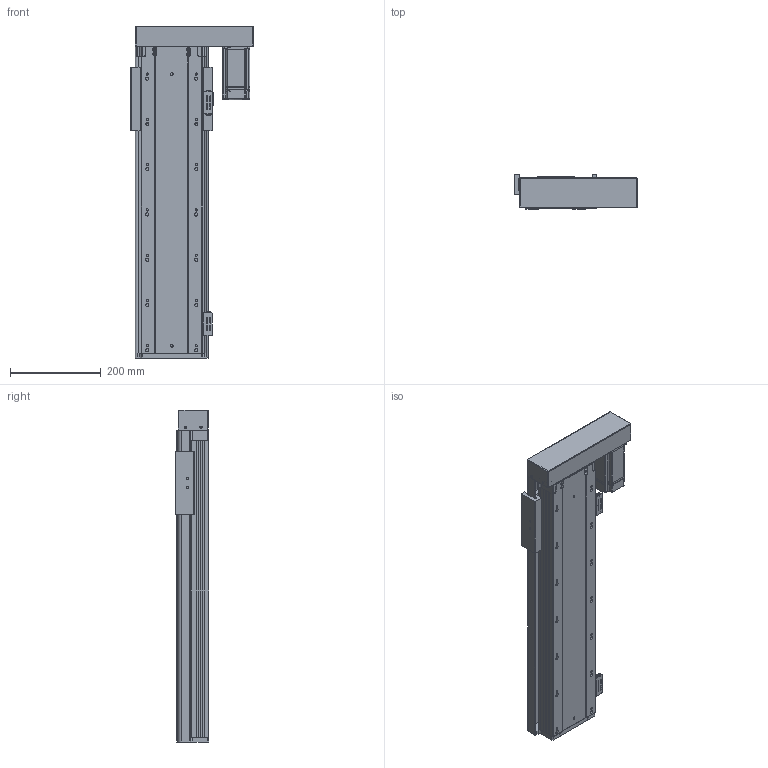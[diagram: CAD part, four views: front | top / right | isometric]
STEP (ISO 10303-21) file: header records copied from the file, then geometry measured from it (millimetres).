
FILE_DESCRIPTION (( 'STEP AP203' ), '1' );
FILE_NAME ('RY140FB-L2010-300-RK.SLDASM_450.step', '2021-02-23T02:40:54', ( '盈信电脑' ), ( '东莞市道滘镇水果街19号' ), 'SwSTEP 2.0', 'SolidWorks 2012', '' );
FILE_SCHEMA (( 'CONFIG_CONTROL_DESIGN' ));
Length unit declared in the file: millimetre
Products named in the file (17): RY140FB-L2010-300-RK.SLDASM_450; RY140FB-酘衵殏萇儂欶; RY140FB-左右折电机安装板; RY140FB-覜茼え; RY140直线电机感应器674光电安装座; 覜茼ん674; RY140-674嫖萇耀輸; 15; RY140FB-20佪裝臏賑輸; 侂狟400W侜督萇儂; RY140FB-300蛌殏奻裔啣-RK_450; 滅袉蝶18-24; RY140FB-转折电机端支撑座(7002); RY140FB-綴裔啣; 滅袉蝶18-10; RY140FB-300蛌殏倰第菁釱-RK_450
Assembly tree (20 placements, depth 3):
  RY140FB-L2010-300-RK.SLDASM_450
    RY140FB-300蛌殏倰第菁釱-RK_450
    RY140FB-綴裔啣
    滅袉蝶18-24  x2
    滅袉蝶18-10
    RY140FB-转折电机端支撑座(7002)
    侂狟400W侜督萇儂
      15
    RY140FB-20佪裝臏賑輸
    RY140FB-300蛌殏奻裔啣-RK_450
    RY140-674嫖萇耀輸
      覜茼ん674
      RY140直线电机感应器674光电安装座
    RY140-674嫖萇耀輸
      覜茼ん674  x2
      RY140直线电机感应器674光电安装座
    RY140FB-覜茼え
    RY140FB-左右折电机安装板
    RY140FB-酘衵殏萇儂欶
Bounding box: 271.3 x 75 x 733.2 mm (x, y, z)
Volume: 3284414.9 mm3; surface area: 1069157 mm2
Topology: 17 solids, 17 shells, 1742 faces, 4755 edges, 3031 vertices
Faces by surface type: cylinder 833, plane 727, cone 154, bspline 28
Entity records: 52325 total; most frequent: CARTESIAN_POINT 10463, DIRECTION 8500, ORIENTED_EDGE 8250, EDGE_CURVE 4125, AXIS2_PLACEMENT_3D 3064, VERTEX_POINT 2699, LINE 2372, VECTOR 2372
